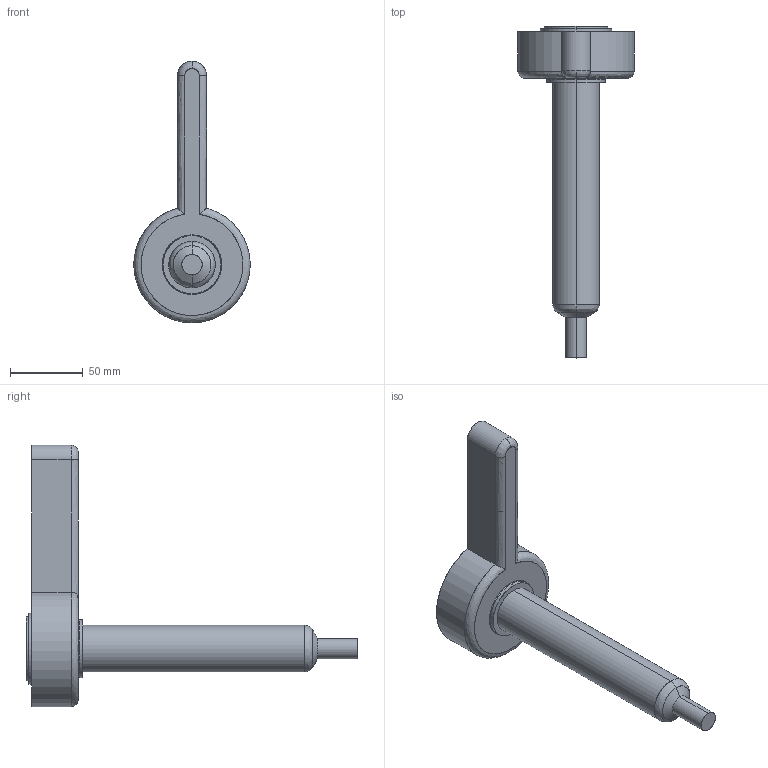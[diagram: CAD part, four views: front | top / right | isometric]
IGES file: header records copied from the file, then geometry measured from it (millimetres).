
Start section: SolidWorks IGES file using analytic representation for surfaces
Global section: file name: C:\Documents and Settings\ws-20\Desktop\TEM\Sede UGBE4504-S-A C-164 L-201 P-25.IGS; native system: SolidWorks 2012; preprocessor: SolidWorks 2012; author: ws-20; date: 120412.155731; units: millimetre
Bounding box: 79.99 x 228.42 x 180 mm (x, y, z)
Surface area: 45119.9 mm2 (no closed solid volume)
Topology: 0 solids, 0 shells, 34 faces, 788 edges, 788 vertices
Faces by surface type: revolution 21, bspline 13
